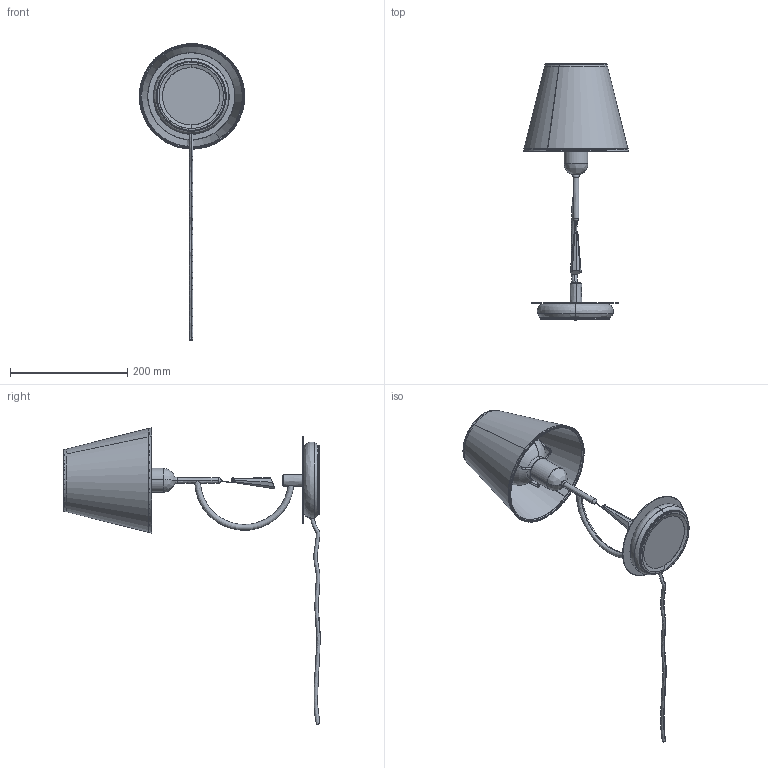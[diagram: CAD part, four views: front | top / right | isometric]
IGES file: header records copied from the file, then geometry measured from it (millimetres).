
Start section: SolidWorks IGES file using analytic representation for surfaces
Global section: file name: E:\3D lampy\Ellice\Ellice_4502_4506\Ellice_4502_4506.IGS; native system: SolidWorks 2016; preprocessor: SolidWorks 2016; author: Asia; date: 160913.151734; units: millimetre
Bounding box: 180.06 x 438.19 x 506.56 mm (x, y, z)
Surface area: 299918.9 mm2 (no closed solid volume)
Topology: 0 solids, 0 shells, 223 faces, 4043 edges, 4037 vertices
Faces by surface type: bspline 155, revolution 68
